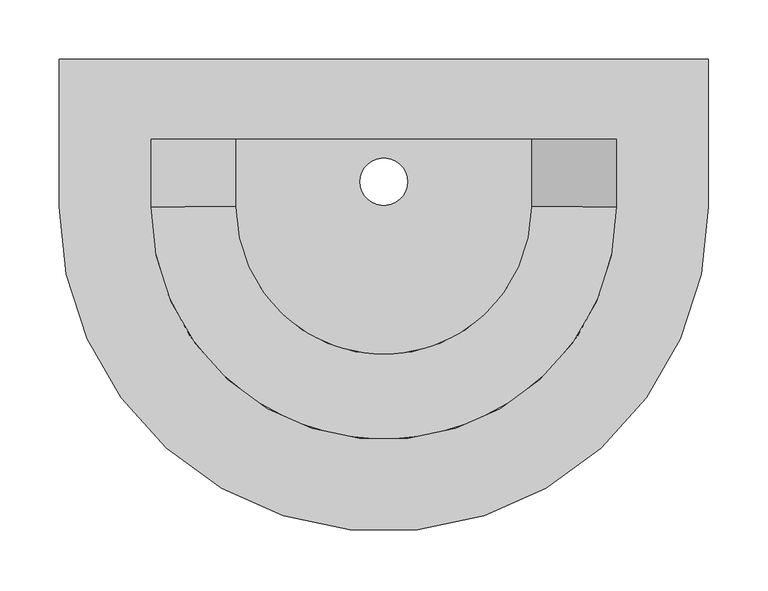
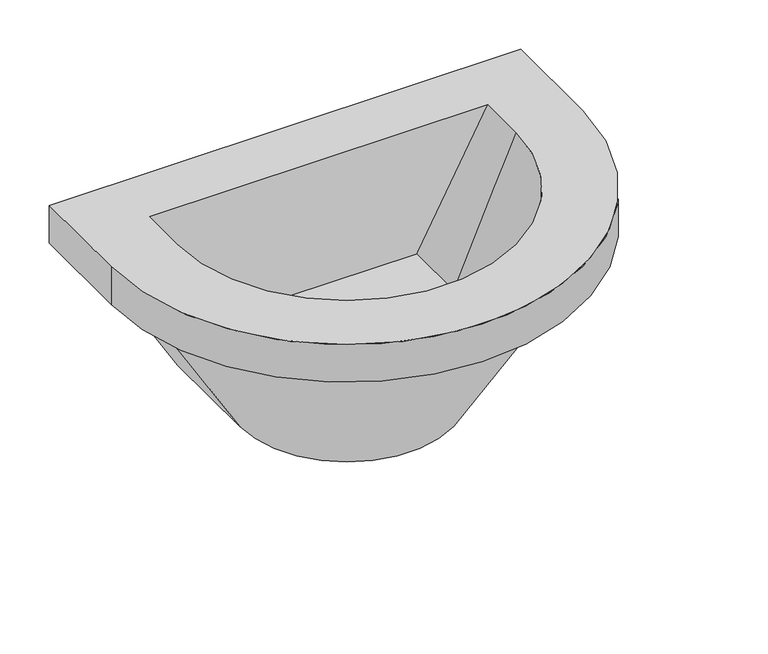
"""IFC4 building model written with IfcOpenShell, lengths in millimetres: flow terminal geometry, BIMHealth-Wash_basin-LOD2A-v1 : BIMHealth-Wash_basin-LOD2A-v1."""

import ifcopenshell
import ifcopenshell.guid

model = None  # the IFC model being written
_history = None  # IfcOwnerHistory: only IFC2X3 demands one
_inside = {}  # id of a spatial element -> (the spatial element, [elements in it])
_under = {}  # id of a project, library or spatial element -> (it, [spatial elements below it])
_declared = {}  # id of a project -> (the project, [libraries it declares])
_typed = {}  # id of a type object -> (the type object, [elements of that type])
_made_of = {}  # id of a material, layer set ... -> (it, [elements and type objects made of it])


def new_model(schema):
    """Start an empty IFC model of exactly this schema.

    Asked for "IFC4X3", IfcOpenShell would pick the latest addendum, in which some entities
    have other attributes; the version numbers below select the first issue.
    IFC2X3 requires an IfcOwnerHistory on every rooted entity: one is made here for all.
    """
    global model, _history
    if schema == "IFC4X3":
        model = ifcopenshell.file(schema_version=(4, 3, 0, 0))
    else:
        model = ifcopenshell.file(schema=schema)
    _inside.clear()
    _under.clear()
    _declared.clear()
    _typed.clear()
    _made_of.clear()
    _history = None
    if model.schema == "IFC2X3":
        org = make("IfcOrganization", Name="unknown")
        user = make(
            "IfcPersonAndOrganization",
            ThePerson=make("IfcPerson", FamilyName="unknown"),
            TheOrganization=org,
        )
        app = make(
            "IfcApplication",
            ApplicationDeveloper=org,
            Version="unknown",
            ApplicationFullName="unknown",
            ApplicationIdentifier="unknown",
        )
        _history = make(
            "IfcOwnerHistory",
            OwningUser=user,
            OwningApplication=app,
            ChangeAction="ADDED",
            CreationDate=0,
        )
    return model


def make(cls, **values):
    """One entity of the class cls with the attributes given. An attribute that is None is left unset."""
    return model.create_entity(
        cls, **{name: value for name, value in values.items() if value is not None}
    )


def rooted(cls, **values):
    """An entity with a GlobalId (a new one), such as an element, a storey or a relation."""
    return make(cls, GlobalId=ifcopenshell.guid.new(), OwnerHistory=_history, **values)


def si_unit(unit_type, name, prefix=None):
    """IfcSIUnit, for example si_unit("LENGTHUNIT", "METRE", prefix="MILLI")."""
    return make("IfcSIUnit", UnitType=unit_type, Prefix=prefix, Name=name)


def assignment(units):
    """IfcUnitAssignment: the units of a project."""
    return None if units is None else make("IfcUnitAssignment", Units=units)


def point(xyz):
    """IfcCartesianPoint."""
    return None if xyz is None else make("IfcCartesianPoint", Coordinates=xyz)


def direction(xyz):
    """IfcDirection."""
    return None if xyz is None else make("IfcDirection", DirectionRatios=xyz)


def frame(location, z_axis=None, x_axis=None):
    """IfcAxis2Placement3D, a coordinate frame: its origin and axes. An axis left out is left unset."""
    return make(
        "IfcAxis2Placement3D",
        Location=point(location),
        Axis=direction(z_axis),
        RefDirection=direction(x_axis),
    )


def origin():
    """The frame at (0, 0, 0) with its axes left unset."""
    return frame((0.0, 0.0, 0.0))


def place(relative_to, where):
    """IfcLocalPlacement: puts the frame where relative to a parent placement (None: the world)."""
    return make(
        "IfcLocalPlacement", PlacementRelTo=relative_to, RelativePlacement=where
    )


def context(
    kind, dimensions, precision=None, world=None, true_north=None, identifier=None
):
    """IfcGeometricRepresentationContext, for example the 3D "Model" context."""
    return make(
        "IfcGeometricRepresentationContext",
        ContextIdentifier=identifier,
        ContextType=kind,
        CoordinateSpaceDimension=dimensions,
        Precision=precision,
        WorldCoordinateSystem=world,
        TrueNorth=true_north,
    )


def project(units=None, contexts=None):
    """IfcProject with its units and contexts."""
    return rooted(
        "IfcProject",
        Name="project",
        RepresentationContexts=contexts,
        UnitsInContext=assignment(units),
    )


def spatial(cls, under=None, at=None, **own):
    """A site, building, storey or space (cls), placed at a placement, below another one or the project."""
    s = rooted(cls, ObjectPlacement=at, **own)
    if under is not None:
        _under.setdefault(under.id(), (under, []))[1].append(s)
    return s


def polyline(points):
    """IfcPolyline through the points."""
    return make("IfcPolyline", Points=[point(p) for p in points])


def circle_curve(where, radius):
    """IfcCircle in the frame where."""
    return make("IfcCircle", Position=where, Radius=radius)


def shape(context_of_items, identifier, shape_type, items):
    """IfcShapeRepresentation: the items that make up one representation, for example the "Body"."""
    return make(
        "IfcShapeRepresentation",
        ContextOfItems=context_of_items,
        RepresentationIdentifier=identifier,
        RepresentationType=shape_type,
        Items=items,
    )


def source(mapping_origin, context_of_items, identifier, shape_type, items):
    """IfcRepresentationMap: a shape defined once, which mapped items show again and again."""
    return make(
        "IfcRepresentationMap",
        MappingOrigin=mapping_origin,
        MappedRepresentation=shape(context_of_items, identifier, shape_type, items),
    )


def transform(
    local_origin,
    x_axis=None,
    y_axis=None,
    z_axis=None,
    scale=None,
    scale2=None,
    scale3=None,
    uniform=True,
):
    """IfcCartesianTransformationOperator3D, or its non-uniform kind. x_axis, y_axis, z_axis: its Axis1, 2, 3."""
    if uniform:
        return make(
            "IfcCartesianTransformationOperator3D",
            Axis1=direction(x_axis),
            Axis2=direction(y_axis),
            LocalOrigin=point(local_origin),
            Scale=scale,
            Axis3=direction(z_axis),
        )
    return make(
        "IfcCartesianTransformationOperator3DnonUniform",
        Axis1=direction(x_axis),
        Axis2=direction(y_axis),
        LocalOrigin=point(local_origin),
        Scale=scale,
        Axis3=direction(z_axis),
        Scale2=scale2,
        Scale3=scale3,
    )


def mapped(mapping_source, mapping_target):
    """IfcMappedItem: shows the shape of a source again, moved by a transform."""
    return make(
        "IfcMappedItem", MappingSource=mapping_source, MappingTarget=mapping_target
    )


def made_of(thing, what):
    """Note that an element or type object is made of a material, layer set ...; save() writes the relation."""
    if what is not None:
        _made_of.setdefault(what.id(), (what, []))[1].append(thing)
    return thing


def element(
    cls,
    number,
    at=None,
    inside=None,
    cuts=None,
    type_object=None,
    material=None,
    context=None,
    identifier="Body",
    shape_type=None,
    held_by="IfcProductDefinitionShape",
    body=None,
    shapes=None,
    **own,
):
    """One element of the class cls, such as IfcWall. Its Tag is "e" and its number.

    at: its placement. inside: the storey or other place that contains it. cuts: it is an
    opening in that element (IfcRelVoidsElement). A single representation is given by context,
    identifier, shape_type and body (its items); several are given by shapes. held_by: the class
    of the entity that holds the representations. save() writes the other relations.
    """
    e = rooted(cls, Tag="e%d" % number, ObjectPlacement=at, **own)
    if body is not None:
        shapes = [shape(context, identifier, shape_type, body)]
    if shapes is not None:
        e.Representation = make(held_by, Representations=shapes)
    if inside is not None:
        _inside.setdefault(inside.id(), (inside, []))[1].append(e)
    if cuts is not None:
        rooted(
            "IfcRelVoidsElement", RelatingBuildingElement=cuts, RelatedOpeningElement=e
        )
    if type_object is not None:
        _typed.setdefault(type_object.id(), (type_object, []))[1].append(e)
    return made_of(e, material)


def aggregate(whole, parts):
    """IfcRelAggregates: a whole, such as a stair, and the parts it consists of."""
    return rooted("IfcRelAggregates", RelatingObject=whole, RelatedObjects=parts)


def save(model, path):
    """Write the relations noted so far, then the file.

    IfcRelAggregates (storeys below a building ...), IfcRelContainedInSpatialStructure (elements
    in a storey), IfcRelDefinesByType, IfcRelAssociatesMaterial and IfcRelDeclares: one each for
    every whole, place, type object, material and project.
    """
    for whole, parts in _under.values():
        aggregate(whole, parts)
    for where, things in _inside.values():
        rooted(
            "IfcRelContainedInSpatialStructure",
            RelatedElements=things,
            RelatingStructure=where,
        )
    for kind, things in _typed.values():
        rooted("IfcRelDefinesByType", RelatedObjects=things, RelatingType=kind)
    for what, things in _made_of.values():
        rooted("IfcRelAssociatesMaterial", RelatedObjects=things, RelatingMaterial=what)
    for by, libraries in _declared.values():
        rooted("IfcRelDeclares", RelatingContext=by, RelatedDefinitions=libraries)
    model.write(path)


def plane_surface(at):
    """IfcPlane: the flat surface through the origin of the frame at, square to its z axis."""
    return make("IfcPlane", Position=at)


def cylinder_surface(at, radius):
    """IfcCylindricalSurface: all points at the distance radius from the z axis of the frame at."""
    return make("IfcCylindricalSurface", Position=at, Radius=radius)


def revolved_surface(curve, axis_point, axis_direction):
    """IfcSurfaceOfRevolution: the curve turned about the line through axis_point along axis_direction."""
    return make(
        "IfcSurfaceOfRevolution",
        SweptCurve=make("IfcArbitraryOpenProfileDef", ProfileType="CURVE", Curve=curve),
        AxisPosition=make("IfcAxis1Placement", Location=point(axis_point), Axis=direction(axis_direction)),
    )


def advanced_brep(points, edges, surfaces, faces):
    """IfcAdvancedBrep: a solid bounded by faces that lie on surfaces and meet in shared edges.

    An edge is (start, end): straight between two places in points (the first is 0);
    or (start, end, curve); or (start, end, curve, False) where it runs against its curve.
    A face is (place in surfaces, loops), or (place, loops, False) where it looks against
    its surface's normal. A loop lists edges by number (the first is 1), with a minus sign
    where the edge is run from its end to its start. The first loop is the outer one.
    """
    corners = [point(p) for p in points]
    vertices = [make("IfcVertexPoint", VertexGeometry=c) for c in corners]
    made = []
    for start, end, *more in edges:
        made.append(
            make(
                "IfcEdgeCurve",
                EdgeStart=vertices[start],
                EdgeEnd=vertices[end],
                EdgeGeometry=more[0] if more else make("IfcPolyline", Points=[corners[start], corners[end]]),
                SameSense=more[1] if len(more) > 1 else True,
            )
        )
    hull = []
    for where, loops, *sense in faces:
        bounds = []
        for j, loop in enumerate(loops):
            ring = [make("IfcOrientedEdge", EdgeElement=made[abs(k) - 1], Orientation=k > 0) for k in loop]
            bounds.append(
                make(
                    "IfcFaceOuterBound" if j == 0 else "IfcFaceBound",
                    Bound=make("IfcEdgeLoop", EdgeList=ring),
                    Orientation=True,
                )
            )
        hull.append(make("IfcAdvancedFace", Bounds=bounds, FaceSurface=surfaces[where], SameSense=sense[0] if sense else True))
    return make("IfcAdvancedBrep", Outer=make("IfcClosedShell", CfsFaces=hull))


def flow_terminal_84fe5d21(model_context):
    return source(origin(), model_context, "Body", "AdvancedBrep", [
        advanced_brep(
        [(550.0, -125.0, 203.3618153), (0.0, -125.0, 203.3618153), (0.0, 0.0, 203.3618153), (27.9829108, 0.0, 203.3618153), (27.9829108, -125.0, 203.3618153), (522.0170892, -125.0, 203.3618153), (522.0170892, 0.0, 203.3618153), (550.0, 0.0, 203.3618153), (550.0, 0.0, 250.0), (550.0, -125.0, 250.0), (0.0, 0.0, 250.0), (400.0, 0.0, 0.0), (150.0, 0.0, 0.0), (0.0, -125.0, 250.0), (150.0, -125.0, 80.3895226), (400.0, -125.0, 80.3895226), (400.0, -50.0, 80.3895226), (150.0, -50.0, 80.3895226), (295.0, -103.75, 80.3895226), (255.0, -103.75, 80.3895226), (77.8428372, -125.0, 250.0), (472.1571628, -125.0, 250.0), (472.1571628, -68.0392907, 250.0), (77.8428372, -68.0392907, 250.0), (150.0, -125.0, 0.0), (400.0, -125.0, 0.0), (255.0, -103.75, 0.0), (295.0, -103.75, 0.0)],
        [
            (0, 1, circle_curve(frame((275.0, -125.0, 203.3618153), z_axis=(0.0, 0.0, -1.0), x_axis=(-1.0, 0.0, 0.0)), 275.0)),
            (1, 2),
            (2, 3),
            (3, 4),
            (4, 5, circle_curve(frame((275.0, -125.0, 203.3618153), z_axis=(0.0, 0.0, 1.0), x_axis=(-1.0, 0.0, 0.0)), 247.0170892)),
            (5, 6),
            (6, 7),
            (7, 0),
            (8, 9),
            (9, 0),
            (7, 8),
            (10, 8),
            (6, 11),
            (11, 12),
            (12, 3),
            (2, 10),
            (13, 10),
            (1, 13),
            (9, 13, circle_curve(frame((275.0, -125.0, 250.0), z_axis=(0.0, 0.0, -1.0), x_axis=(-1.0, 0.0, 0.0)), 275.0)),
            (14, 15, circle_curve(frame((275.0, -125.0, 80.3895226), z_axis=(0.0, 0.0, 1.0), x_axis=(-1.0, 0.0, 0.0)), 125.0)),
            (15, 16),
            (16, 17),
            (17, 14),
            (18, 19, circle_curve(frame((275.0, -103.75, 80.3895226), z_axis=(0.0, 0.0, -1.0), x_axis=(1.0, 0.0, 0.0)), 20.0)),
            (19, 18, circle_curve(frame((275.0, -103.75, 80.3895226), z_axis=(0.0, 0.0, -1.0), x_axis=(1.0, 0.0, 0.0)), 20.0)),
            (14, 20),
            (20, 21, circle_curve(frame((275.0, -125.0, 250.0), z_axis=(0.0, 0.0, 1.0), x_axis=(-1.0, 0.0, 0.0)), 197.1571628)),
            (21, 15),
            (21, 22),
            (22, 16),
            (17, 23),
            (23, 20),
            (24, 12),
            (11, 25),
            (25, 24, circle_curve(frame((275.0, -125.0, 0.0), z_axis=(0.0, 0.0, -1.0), x_axis=(-1.0, 0.0, 0.0)), 125.0)),
            (26, 27, circle_curve(frame((275.0, -103.75, 0.0), z_axis=(0.0, 0.0, 1.0), x_axis=(1.0, 0.0, 0.0)), 20.0)),
            (27, 26, circle_curve(frame((275.0, -103.75, 0.0), z_axis=(0.0, 0.0, 1.0), x_axis=(1.0, 0.0, 0.0)), 20.0)),
            (25, 5),
            (4, 24),
            (26, 19),
            (18, 27),
            (22, 23),
        ],
        [
            plane_surface(frame((550.0, 0.0, 203.3618153), z_axis=(0.0, 0.0, -1.0), x_axis=(0.0, -1.0, 0.0))),
            plane_surface(frame((550.0, -125.0, 250.0), z_axis=(1.0, 0.0, 0.0), x_axis=(0.0, 0.0, -1.0))),
            plane_surface(frame((550.0, 0.0, 250.0), z_axis=(0.0, 1.0, 0.0), x_axis=(0.0, 0.0, -1.0))),
            plane_surface(frame((0.0, 0.0, 250.0), z_axis=(-1.0, 0.0, 0.0), x_axis=(0.0, 0.0, -1.0))),
            cylinder_surface(frame((275.0, -125.0, 203.3618153), z_axis=(0.0, 0.0, 1.0), x_axis=(-1.0, 0.0, 0.0)), 275.0),
            plane_surface(frame((275.0, -87.5, 80.3895226), z_axis=(0.0, 0.0, 1.0), x_axis=(0.0, -1.0, 0.0))),
            revolved_surface(polyline([(77.84283720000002, -125.0, 250.00000000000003), (149.9999999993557, -125.0, 80.38952259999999)]), (275.0, -125.0, -213.4317538), (0.0, 0.0, 1.0)),
            plane_surface(frame((400.0, -87.5, 80.3895226), z_axis=(-0.9201888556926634, 0.0, 0.3914747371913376), x_axis=(0.0, 1.0, 0.0))),
            plane_surface(frame((150.0, -87.5, 80.3895226), z_axis=(0.9201888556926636, 0.0, 0.3914747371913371), x_axis=(0.0, -1.0, 0.0))),
            plane_surface(frame((275.0, -62.5, 0.0), z_axis=(0.0, 0.0, -1.0), x_axis=(-1.0, 0.0, 0.0))),
            revolved_surface(polyline([(400.0000000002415, -125.0, 2.842170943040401e-14), (522.0170892, -125.0, 203.3618153)]), (275.0, -125.0, -208.3333333), (0.0, 0.0, 1.0)),
            plane_surface(frame((400.0, -62.5, 0.0), z_axis=(0.8574929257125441, 0.0, -0.5144957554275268), x_axis=(0.0, 1.0, 0.0))),
            plane_surface(frame((150.0, -62.5, 0.0), z_axis=(-0.8574929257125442, 0.0, -0.5144957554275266), x_axis=(0.0, -1.0, 0.0))),
            revolved_surface(polyline([(295.0, -103.75, 80.38952260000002), (295.0, -103.75, 0.0)]), (275.0, -103.75, -130.4390884), (0.0, 0.0, 1.0)),
            plane_surface(frame((275.0, -50.0, 80.3895226), z_axis=(0.0, -0.9943916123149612, -0.10576067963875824), x_axis=(-1.0, 0.0, 0.0))),
            plane_surface(frame((550.0, 0.0, 250.0), z_axis=(0.0, 0.0, 1.0), x_axis=(0.0, 1.0, 0.0))),
        ],
        [
            (0, [[1, 2, 3, 4, 5, 6, 7, 8]]),
            (1, [[9, 10, -8, 11]]),
            (2, [[12, -11, -7, 13, 14, 15, -3, 16]]),
            (3, [[17, -16, -2, 18]]),
            (4, [[19, -18, -1, -10]]),
            (5, [[20, 21, 22, 23], [24, 25]]),
            (6, [[-20, 26, 27, 28]]),
            (7, [[-21, -28, 29, 30]]),
            (8, [[-23, 31, 32, -26]]),
            (9, [[33, -14, 34, 35], [36, 37]]),
            (10, [[-35, 38, -5, 39]]),
            (11, [[-34, -13, -6, -38]]),
            (12, [[-33, -39, -4, -15]]),
            (13, [[40, -24, 41, -36]]),
            (13, [[-40, -37, -41, -25]]),
            (14, [[-22, -30, 42, -31]]),
            (15, [[-9, -12, -17, -19], [-27, -32, -42, -29]]),
        ],
    ),
    ])


if __name__ == "__main__":
    model = new_model("IFC4")
    model_context = context("Model", 3, world=origin())
    ifc_project = project(units=[si_unit("LENGTHUNIT", "METRE", prefix="MILLI")], contexts=[model_context])
    site = spatial("IfcSite", under=ifc_project)
    building = spatial("IfcBuilding", under=site)
    placement = place(None, origin())
    flow_terminal_shape = flow_terminal_84fe5d21(model_context)
    element("IfcFlowTerminal", 1, ObjectType="BIMHealth-Wash_basin-LOD2A-v1 : BIMHealth-Wash_basin-LOD2A-v1", at=placement, inside=building, context=model_context, shape_type="MappedRepresentation", body=[
        mapped(flow_terminal_shape, transform((0.0, 0.0, 0.0), x_axis=(1.0, 0.0, 0.0), y_axis=(0.0, 1.0, 0.0), z_axis=(0.0, 0.0, 1.0))),
    ])
    save(model, "model.ifc")
